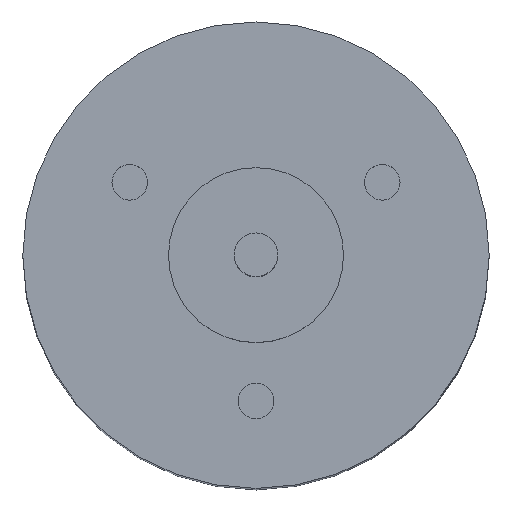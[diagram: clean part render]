
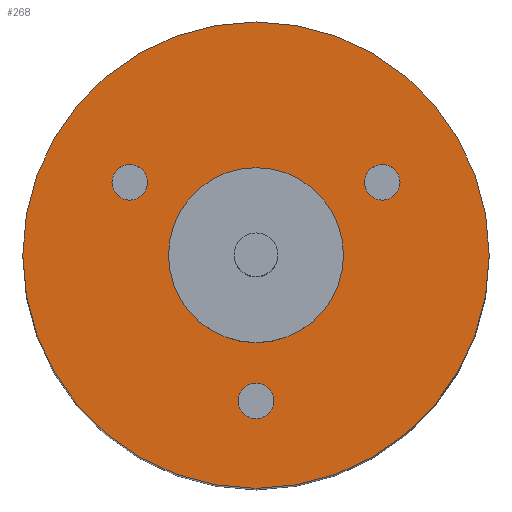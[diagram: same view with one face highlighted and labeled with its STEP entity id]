
A CAD part, top view. The second image highlights one B-rep face of the part: STEP entity #268.
In plain terms, the highlighted planar face has unit normal (0, 0, 1).
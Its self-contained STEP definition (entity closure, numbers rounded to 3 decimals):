
#126=CARTESIAN_POINT('',(4.941,2.5,0.));
#127=VERTEX_POINT('',#126);
#128=CARTESIAN_POINT('',(4.33,2.5,0.));
#129=DIRECTION('',(0.0,0.0,-1.0));
#130=DIRECTION('',(1.0,0.0,0.0));
#131=AXIS2_PLACEMENT_3D('',#128,#129,#130);
#132=CIRCLE('',#131,0.611);
#133=EDGE_CURVE('',#127,#127,#132,.T.);
#163=CARTESIAN_POINT('',(-3.72,2.5,0.));
#164=VERTEX_POINT('',#163);
#165=CARTESIAN_POINT('',(-4.33,2.5,0.));
#166=DIRECTION('',(0.0,0.0,-1.0));
#167=DIRECTION('',(1.0,0.0,0.0));
#168=AXIS2_PLACEMENT_3D('',#165,#166,#167);
#169=CIRCLE('',#168,0.611);
#170=EDGE_CURVE('',#164,#164,#169,.T.);
#200=CARTESIAN_POINT('',(0.61,-5.,0.));
#201=VERTEX_POINT('',#200);
#202=CARTESIAN_POINT('',(0.,-5.,0.));
#203=DIRECTION('',(0.0,0.0,-1.0));
#204=DIRECTION('',(1.0,0.0,0.0));
#205=AXIS2_PLACEMENT_3D('',#202,#203,#204);
#206=CIRCLE('',#205,0.611);
#207=EDGE_CURVE('',#201,#201,#206,.T.);
#232=CARTESIAN_POINT('',(0.0,5.5,0.));
#233=DIRECTION('',(0.0,0.0,1.0));
#234=DIRECTION('',(1.0,0.0,0.0));
#235=AXIS2_PLACEMENT_3D('',#232,#233,#234);
#236=PLANE('',#235);
#237=CARTESIAN_POINT('',(0.0,8.,0.));
#238=VERTEX_POINT('',#237);
#239=CARTESIAN_POINT('',(0.0,0.,0.));
#240=DIRECTION('',(0.0,0.0,-1.0));
#241=DIRECTION('',(0.0,1.0,0.0));
#242=AXIS2_PLACEMENT_3D('',#239,#240,#241);
#243=CIRCLE('',#242,8.);
#244=EDGE_CURVE('',#238,#238,#243,.T.);
#245=ORIENTED_EDGE('',*,*,#244,.F.);
#246=EDGE_LOOP('',(#245));
#247=FACE_OUTER_BOUND('',#246,.T.);
#248=ORIENTED_EDGE('',*,*,#133,.T.);
#249=EDGE_LOOP('',(#248));
#250=FACE_BOUND('',#249,.T.);
#251=ORIENTED_EDGE('',*,*,#170,.T.);
#252=EDGE_LOOP('',(#251));
#253=FACE_BOUND('',#252,.T.);
#254=ORIENTED_EDGE('',*,*,#207,.T.);
#255=EDGE_LOOP('',(#254));
#256=FACE_BOUND('',#255,.T.);
#257=CARTESIAN_POINT('',(0.0,3.,0.));
#258=VERTEX_POINT('',#257);
#259=CARTESIAN_POINT('',(0.0,0.,0.));
#260=DIRECTION('',(0.0,0.0,-1.0));
#261=DIRECTION('',(0.0,1.0,0.0));
#262=AXIS2_PLACEMENT_3D('',#259,#260,#261);
#263=CIRCLE('',#262,3.);
#264=EDGE_CURVE('',#258,#258,#263,.T.);
#265=ORIENTED_EDGE('',*,*,#264,.T.);
#266=EDGE_LOOP('',(#265));
#267=FACE_BOUND('',#266,.T.);
#268=ADVANCED_FACE('',(#247,#250,#253,#256,#267),#236,.T.);
